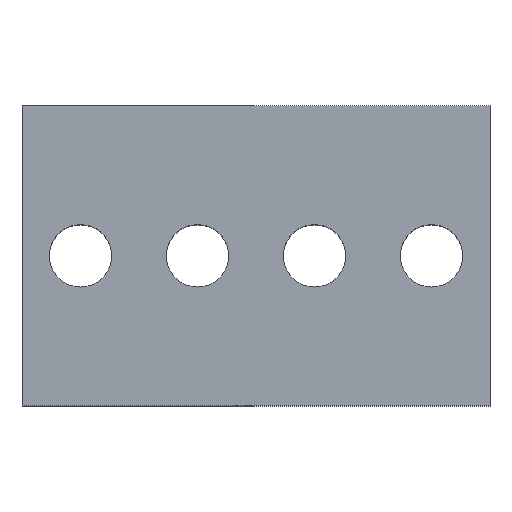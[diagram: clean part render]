
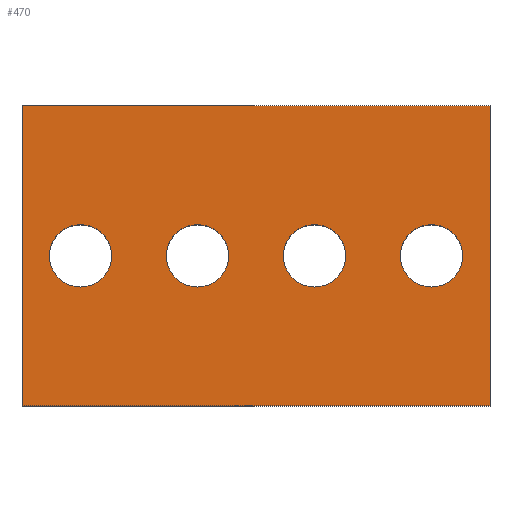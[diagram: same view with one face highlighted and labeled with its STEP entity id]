
A CAD part, top view. The second image highlights one B-rep face of the part: STEP entity #470.
In plain terms, the highlighted planar face has unit normal (0, 0, 1).
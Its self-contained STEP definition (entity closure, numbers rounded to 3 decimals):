
#17=LINE('',#660,#55);
#35=LINE('',#706,#73);
#44=LINE('',#733,#82);
#52=LINE('',#766,#90);
#55=VECTOR('',#534,10.);
#73=VECTOR('',#572,10.);
#82=VECTOR('',#597,10.);
#90=VECTOR('',#639,10.);
#103=PLANE('',#515);
#125=FACE_BOUND('',#196,.T.);
#126=FACE_BOUND('',#197,.T.);
#127=FACE_BOUND('',#198,.T.);
#128=FACE_BOUND('',#199,.T.);
#151=FACE_OUTER_BOUND('',#195,.T.);
#195=EDGE_LOOP('',(#430,#431,#432,#433));
#196=EDGE_LOOP('',(#434));
#197=EDGE_LOOP('',(#435));
#198=EDGE_LOOP('',(#436));
#199=EDGE_LOOP('',(#437));
#203=CIRCLE('',#478,2.);
#204=CIRCLE('',#481,2.);
#216=CIRCLE('',#506,2.);
#218=CIRCLE('',#510,2.);
#223=VERTEX_POINT('',#651);
#226=VERTEX_POINT('',#657);
#227=VERTEX_POINT('',#659);
#228=VERTEX_POINT('',#663);
#245=VERTEX_POINT('',#704);
#255=VERTEX_POINT('',#731);
#260=VERTEX_POINT('',#752);
#262=VERTEX_POINT('',#758);
#267=EDGE_CURVE('',#223,#223,#203,.T.);
#270=EDGE_CURVE('',#226,#227,#17,.T.);
#272=EDGE_CURVE('',#228,#228,#204,.T.);
#292=EDGE_CURVE('',#245,#226,#35,.T.);
#305=EDGE_CURVE('',#255,#245,#44,.T.);
#316=EDGE_CURVE('',#260,#260,#216,.T.);
#318=EDGE_CURVE('',#262,#262,#218,.T.);
#321=EDGE_CURVE('',#255,#227,#52,.T.);
#430=ORIENTED_EDGE('',*,*,#305,.F.);
#431=ORIENTED_EDGE('',*,*,#321,.T.);
#432=ORIENTED_EDGE('',*,*,#270,.F.);
#433=ORIENTED_EDGE('',*,*,#292,.F.);
#434=ORIENTED_EDGE('',*,*,#267,.T.);
#435=ORIENTED_EDGE('',*,*,#272,.T.);
#436=ORIENTED_EDGE('',*,*,#316,.T.);
#437=ORIENTED_EDGE('',*,*,#318,.T.);
#470=ADVANCED_FACE('',(#151,#125,#126,#127,#128),#103,.T.);
#478=AXIS2_PLACEMENT_3D('',#652,#528,#529);
#481=AXIS2_PLACEMENT_3D('',#664,#538,#539);
#506=AXIS2_PLACEMENT_3D('',#753,#620,#621);
#510=AXIS2_PLACEMENT_3D('',#759,#628,#629);
#515=AXIS2_PLACEMENT_3D('',#767,#640,#641);
#528=DIRECTION('center_axis',(0.,0.,-1.));
#529=DIRECTION('ref_axis',(-1.,0.,0.));
#534=DIRECTION('',(0.,1.,0.));
#538=DIRECTION('center_axis',(0.,0.,-1.));
#539=DIRECTION('ref_axis',(-1.,0.,0.));
#572=DIRECTION('',(-1.,0.,0.));
#597=DIRECTION('',(0.,-1.,0.));
#620=DIRECTION('center_axis',(0.,0.,-1.));
#621=DIRECTION('ref_axis',(-1.,0.,0.));
#628=DIRECTION('center_axis',(0.,0.,-1.));
#629=DIRECTION('ref_axis',(-1.,0.,0.));
#639=DIRECTION('',(-1.,0.,0.));
#640=DIRECTION('center_axis',(0.,0.,1.));
#641=DIRECTION('ref_axis',(0.,1.,0.));
#651=CARTESIAN_POINT('',(67.993,0.,6.));
#652=CARTESIAN_POINT('Origin',(65.993,0.,6.));
#657=CARTESIAN_POINT('',(54.743,-9.619,6.));
#659=CARTESIAN_POINT('',(54.743,9.619,6.));
#660=CARTESIAN_POINT('',(54.743,-9.619,6.));
#663=CARTESIAN_POINT('',(60.493,0.,6.));
#664=CARTESIAN_POINT('Origin',(58.493,0.,6.));
#704=CARTESIAN_POINT('',(84.743,-9.619,6.));
#706=CARTESIAN_POINT('',(84.743,-9.619,6.));
#731=CARTESIAN_POINT('',(84.743,9.619,6.));
#733=CARTESIAN_POINT('',(84.743,9.619,6.));
#752=CARTESIAN_POINT('',(75.493,0.,6.));
#753=CARTESIAN_POINT('Origin',(73.493,0.,6.));
#758=CARTESIAN_POINT('',(82.993,0.,6.));
#759=CARTESIAN_POINT('Origin',(80.993,0.,6.));
#766=CARTESIAN_POINT('',(84.743,9.619,6.));
#767=CARTESIAN_POINT('Origin',(84.743,-9.619,6.));
